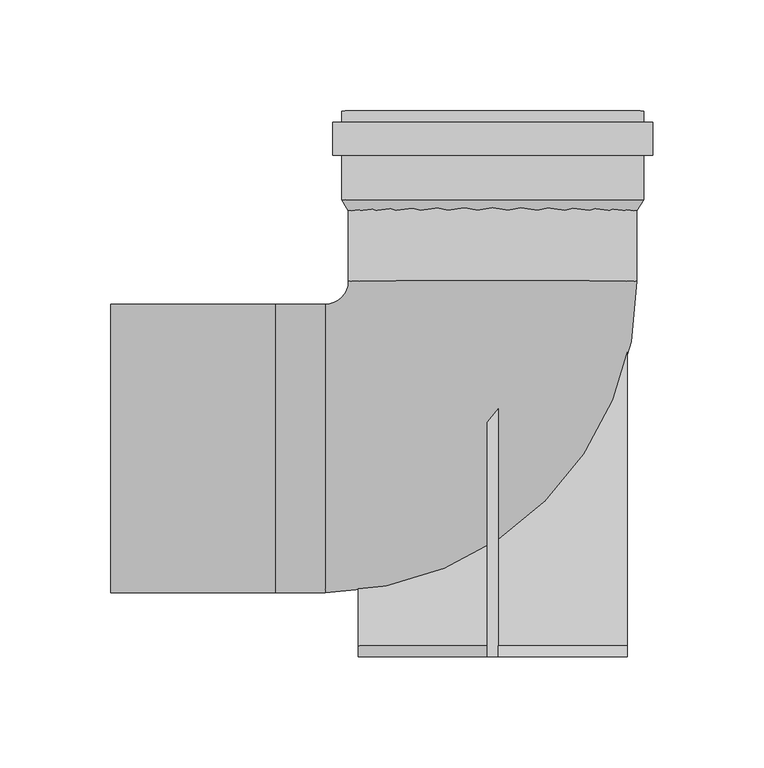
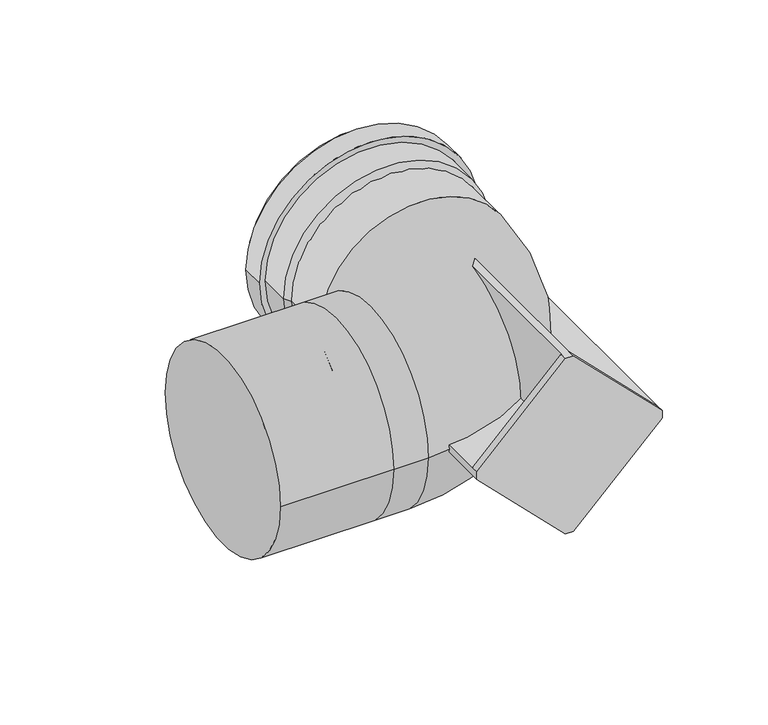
"""IFC4 building model written with IfcOpenShell, lengths in millimetres: duct fitting geometry, NLRS_57_DUF_UN_Twinline Supportbend_M&G : ø130 - 150 - 200."""

import ifcopenshell
import ifcopenshell.guid

model = None  # the IFC model being written
_history = None  # IfcOwnerHistory: only IFC2X3 demands one
_inside = {}  # id of a spatial element -> (the spatial element, [elements in it])
_under = {}  # id of a project, library or spatial element -> (it, [spatial elements below it])
_declared = {}  # id of a project -> (the project, [libraries it declares])
_typed = {}  # id of a type object -> (the type object, [elements of that type])
_made_of = {}  # id of a material, layer set ... -> (it, [elements and type objects made of it])


def new_model(schema):
    """Start an empty IFC model of exactly this schema.

    Asked for "IFC4X3", IfcOpenShell would pick the latest addendum, in which some entities
    have other attributes; the version numbers below select the first issue.
    IFC2X3 requires an IfcOwnerHistory on every rooted entity: one is made here for all.
    """
    global model, _history
    if schema == "IFC4X3":
        model = ifcopenshell.file(schema_version=(4, 3, 0, 0))
    else:
        model = ifcopenshell.file(schema=schema)
    _inside.clear()
    _under.clear()
    _declared.clear()
    _typed.clear()
    _made_of.clear()
    _history = None
    if model.schema == "IFC2X3":
        org = make("IfcOrganization", Name="unknown")
        user = make(
            "IfcPersonAndOrganization",
            ThePerson=make("IfcPerson", FamilyName="unknown"),
            TheOrganization=org,
        )
        app = make(
            "IfcApplication",
            ApplicationDeveloper=org,
            Version="unknown",
            ApplicationFullName="unknown",
            ApplicationIdentifier="unknown",
        )
        _history = make(
            "IfcOwnerHistory",
            OwningUser=user,
            OwningApplication=app,
            ChangeAction="ADDED",
            CreationDate=0,
        )
    return model


def make(cls, **values):
    """One entity of the class cls with the attributes given. An attribute that is None is left unset."""
    return model.create_entity(
        cls, **{name: value for name, value in values.items() if value is not None}
    )


def rooted(cls, **values):
    """An entity with a GlobalId (a new one), such as an element, a storey or a relation."""
    return make(cls, GlobalId=ifcopenshell.guid.new(), OwnerHistory=_history, **values)


def si_unit(unit_type, name, prefix=None):
    """IfcSIUnit, for example si_unit("LENGTHUNIT", "METRE", prefix="MILLI")."""
    return make("IfcSIUnit", UnitType=unit_type, Prefix=prefix, Name=name)


def assignment(units):
    """IfcUnitAssignment: the units of a project."""
    return None if units is None else make("IfcUnitAssignment", Units=units)


def point(xyz):
    """IfcCartesianPoint."""
    return None if xyz is None else make("IfcCartesianPoint", Coordinates=xyz)


def direction(xyz):
    """IfcDirection."""
    return None if xyz is None else make("IfcDirection", DirectionRatios=xyz)


def frame(location, z_axis=None, x_axis=None):
    """IfcAxis2Placement3D, a coordinate frame: its origin and axes. An axis left out is left unset."""
    return make(
        "IfcAxis2Placement3D",
        Location=point(location),
        Axis=direction(z_axis),
        RefDirection=direction(x_axis),
    )


def frame_2d(location, x_axis=None):
    """IfcAxis2Placement2D, a coordinate frame in the plane: its origin and x axis."""
    return make(
        "IfcAxis2Placement2D", Location=point(location), RefDirection=direction(x_axis)
    )


def origin():
    """The frame at (0, 0, 0) with its axes left unset."""
    return frame((0.0, 0.0, 0.0))


def origin_2d():
    """The frame at (0, 0) in the plane with its x axis left unset."""
    return frame_2d((0.0, 0.0))


def place(relative_to, where):
    """IfcLocalPlacement: puts the frame where relative to a parent placement (None: the world)."""
    return make(
        "IfcLocalPlacement", PlacementRelTo=relative_to, RelativePlacement=where
    )


def context(
    kind, dimensions, precision=None, world=None, true_north=None, identifier=None
):
    """IfcGeometricRepresentationContext, for example the 3D "Model" context."""
    return make(
        "IfcGeometricRepresentationContext",
        ContextIdentifier=identifier,
        ContextType=kind,
        CoordinateSpaceDimension=dimensions,
        Precision=precision,
        WorldCoordinateSystem=world,
        TrueNorth=true_north,
    )


def project(units=None, contexts=None):
    """IfcProject with its units and contexts."""
    return rooted(
        "IfcProject",
        Name="project",
        RepresentationContexts=contexts,
        UnitsInContext=assignment(units),
    )


def spatial(cls, under=None, at=None, **own):
    """A site, building, storey or space (cls), placed at a placement, below another one or the project."""
    s = rooted(cls, ObjectPlacement=at, **own)
    if under is not None:
        _under.setdefault(under.id(), (under, []))[1].append(s)
    return s


def polyline(points):
    """IfcPolyline through the points."""
    return make("IfcPolyline", Points=[point(p) for p in points])


def circle_curve(where, radius):
    """IfcCircle in the frame where."""
    return make("IfcCircle", Position=where, Radius=radius)


def ellipse_curve(where, semi_axis1, semi_axis2):
    """IfcEllipse in the frame where."""
    return make(
        "IfcEllipse", Position=where, SemiAxis1=semi_axis1, SemiAxis2=semi_axis2
    )


def trimmed(basis, trim1, trim2, sense, master):
    """IfcTrimmedCurve: the piece of a basis curve between two trims."""
    return make(
        "IfcTrimmedCurve",
        BasisCurve=basis,
        Trim1=trim1,
        Trim2=trim2,
        SenseAgreement=sense,
        MasterRepresentation=master,
    )


def segment(curve, same_sense, transition):
    """IfcCompositeCurveSegment."""
    return make(
        "IfcCompositeCurveSegment",
        Transition=transition,
        SameSense=same_sense,
        ParentCurve=curve,
    )


def composite_curve(segments, self_intersect=None):
    """IfcCompositeCurve: segments joined end to end."""
    return make("IfcCompositeCurve", Segments=segments, SelfIntersect=self_intersect)


def outline(outer, holes=None, kind="AREA"):
    """IfcArbitraryClosedProfileDef: a profile drawn as a closed curve; with holes, ...WithVoids."""
    if holes is None:
        return make("IfcArbitraryClosedProfileDef", ProfileType=kind, OuterCurve=outer)
    return make(
        "IfcArbitraryProfileDefWithVoids",
        ProfileType=kind,
        OuterCurve=outer,
        InnerCurves=holes,
    )


def extrude(swept, where, along, depth):
    """IfcExtrudedAreaSolid: the profile swept, set in the frame where, extruded along a direction by depth."""
    return make(
        "IfcExtrudedAreaSolid",
        SweptArea=swept,
        Position=where,
        ExtrudedDirection=direction(along),
        Depth=depth,
    )


def faces_of(points, faces, orient=None, outer=None):
    """IfcFace entities. A face is a list of loops; a loop is a list of indices into points, from 0.

    orient and outer hold one flag for each loop. By default every Orientation is true, the
    first loop of a face is its IfcFaceOuterBound and the others are IfcFaceBound.
    """
    made = []
    for i, loops in enumerate(faces):
        bounds = []
        for j, loop in enumerate(loops):
            is_outer = j == 0 if outer is None else outer[i][j]
            bounds.append(
                make(
                    "IfcFaceOuterBound" if is_outer else "IfcFaceBound",
                    Bound=make("IfcPolyLoop", Polygon=[points[k] for k in loop]),
                    Orientation=True if orient is None else orient[i][j],
                )
            )
        made.append(make("IfcFace", Bounds=bounds))
    return made


def faceted_brep(points, faces, orient=None, outer=None, voids=None):
    """IfcFacetedBrep: a solid bounded by flat faces; with voids (closed shells), ...WithVoids."""
    shared = [point(p) for p in points]
    hull = make("IfcClosedShell", CfsFaces=faces_of(shared, faces, orient, outer))
    if voids is None:
        return make("IfcFacetedBrep", Outer=hull)
    return make(
        "IfcFacetedBrepWithVoids",
        Outer=hull,
        Voids=[
            make(cls, CfsFaces=faces_of(shared, fs, o, b)) for cls, fs, o, b in voids
        ],
    )


def shape(context_of_items, identifier, shape_type, items):
    """IfcShapeRepresentation: the items that make up one representation, for example the "Body"."""
    return make(
        "IfcShapeRepresentation",
        ContextOfItems=context_of_items,
        RepresentationIdentifier=identifier,
        RepresentationType=shape_type,
        Items=items,
    )


def source(mapping_origin, context_of_items, identifier, shape_type, items):
    """IfcRepresentationMap: a shape defined once, which mapped items show again and again."""
    return make(
        "IfcRepresentationMap",
        MappingOrigin=mapping_origin,
        MappedRepresentation=shape(context_of_items, identifier, shape_type, items),
    )


def transform(
    local_origin,
    x_axis=None,
    y_axis=None,
    z_axis=None,
    scale=None,
    scale2=None,
    scale3=None,
    uniform=True,
):
    """IfcCartesianTransformationOperator3D, or its non-uniform kind. x_axis, y_axis, z_axis: its Axis1, 2, 3."""
    if uniform:
        return make(
            "IfcCartesianTransformationOperator3D",
            Axis1=direction(x_axis),
            Axis2=direction(y_axis),
            LocalOrigin=point(local_origin),
            Scale=scale,
            Axis3=direction(z_axis),
        )
    return make(
        "IfcCartesianTransformationOperator3DnonUniform",
        Axis1=direction(x_axis),
        Axis2=direction(y_axis),
        LocalOrigin=point(local_origin),
        Scale=scale,
        Axis3=direction(z_axis),
        Scale2=scale2,
        Scale3=scale3,
    )


def mapped(mapping_source, mapping_target):
    """IfcMappedItem: shows the shape of a source again, moved by a transform."""
    return make(
        "IfcMappedItem", MappingSource=mapping_source, MappingTarget=mapping_target
    )


def made_of(thing, what):
    """Note that an element or type object is made of a material, layer set ...; save() writes the relation."""
    if what is not None:
        _made_of.setdefault(what.id(), (what, []))[1].append(thing)
    return thing


def element(
    cls,
    number,
    at=None,
    inside=None,
    cuts=None,
    type_object=None,
    material=None,
    context=None,
    identifier="Body",
    shape_type=None,
    held_by="IfcProductDefinitionShape",
    body=None,
    shapes=None,
    **own,
):
    """One element of the class cls, such as IfcWall. Its Tag is "e" and its number.

    at: its placement. inside: the storey or other place that contains it. cuts: it is an
    opening in that element (IfcRelVoidsElement). A single representation is given by context,
    identifier, shape_type and body (its items); several are given by shapes. held_by: the class
    of the entity that holds the representations. save() writes the other relations.
    """
    e = rooted(cls, Tag="e%d" % number, ObjectPlacement=at, **own)
    if body is not None:
        shapes = [shape(context, identifier, shape_type, body)]
    if shapes is not None:
        e.Representation = make(held_by, Representations=shapes)
    if inside is not None:
        _inside.setdefault(inside.id(), (inside, []))[1].append(e)
    if cuts is not None:
        rooted(
            "IfcRelVoidsElement", RelatingBuildingElement=cuts, RelatedOpeningElement=e
        )
    if type_object is not None:
        _typed.setdefault(type_object.id(), (type_object, []))[1].append(e)
    return made_of(e, material)


def aggregate(whole, parts):
    """IfcRelAggregates: a whole, such as a stair, and the parts it consists of."""
    return rooted("IfcRelAggregates", RelatingObject=whole, RelatedObjects=parts)


def save(model, path):
    """Write the relations noted so far, then the file.

    IfcRelAggregates (storeys below a building ...), IfcRelContainedInSpatialStructure (elements
    in a storey), IfcRelDefinesByType, IfcRelAssociatesMaterial and IfcRelDeclares: one each for
    every whole, place, type object, material and project.
    """
    for whole, parts in _under.values():
        aggregate(whole, parts)
    for where, things in _inside.values():
        rooted(
            "IfcRelContainedInSpatialStructure",
            RelatedElements=things,
            RelatingStructure=where,
        )
    for kind, things in _typed.values():
        rooted("IfcRelDefinesByType", RelatedObjects=things, RelatingType=kind)
    for what, things in _made_of.values():
        rooted("IfcRelAssociatesMaterial", RelatedObjects=things, RelatingMaterial=what)
    for by, libraries in _declared.values():
        rooted("IfcRelDeclares", RelatingContext=by, RelatedDefinitions=libraries)
    model.write(path)


def plane_surface(at):
    """IfcPlane: the flat surface through the origin of the frame at, square to its z axis."""
    return make("IfcPlane", Position=at)


def cylinder_surface(at, radius):
    """IfcCylindricalSurface: all points at the distance radius from the z axis of the frame at."""
    return make("IfcCylindricalSurface", Position=at, Radius=radius)


def revolved_surface(curve, axis_point, axis_direction):
    """IfcSurfaceOfRevolution: the curve turned about the line through axis_point along axis_direction."""
    return make(
        "IfcSurfaceOfRevolution",
        SweptCurve=make("IfcArbitraryOpenProfileDef", ProfileType="CURVE", Curve=curve),
        AxisPosition=make("IfcAxis1Placement", Location=point(axis_point), Axis=direction(axis_direction)),
    )


def advanced_brep(points, edges, surfaces, faces):
    """IfcAdvancedBrep: a solid bounded by faces that lie on surfaces and meet in shared edges.

    An edge is (start, end): straight between two places in points (the first is 0);
    or (start, end, curve); or (start, end, curve, False) where it runs against its curve.
    A face is (place in surfaces, loops), or (place, loops, False) where it looks against
    its surface's normal. A loop lists edges by number (the first is 1), with a minus sign
    where the edge is run from its end to its start. The first loop is the outer one.
    """
    corners = [point(p) for p in points]
    vertices = [make("IfcVertexPoint", VertexGeometry=c) for c in corners]
    made = []
    for start, end, *more in edges:
        made.append(
            make(
                "IfcEdgeCurve",
                EdgeStart=vertices[start],
                EdgeEnd=vertices[end],
                EdgeGeometry=more[0] if more else make("IfcPolyline", Points=[corners[start], corners[end]]),
                SameSense=more[1] if len(more) > 1 else True,
            )
        )
    hull = []
    for where, loops, *sense in faces:
        bounds = []
        for j, loop in enumerate(loops):
            ring = [make("IfcOrientedEdge", EdgeElement=made[abs(k) - 1], Orientation=k > 0) for k in loop]
            bounds.append(
                make(
                    "IfcFaceOuterBound" if j == 0 else "IfcFaceBound",
                    Bound=make("IfcEdgeLoop", EdgeList=ring),
                    Orientation=True,
                )
            )
        hull.append(make("IfcAdvancedFace", Bounds=bounds, FaceSurface=surfaces[where], SameSense=sense[0] if sense else True))
    return make("IfcAdvancedBrep", Outer=make("IfcClosedShell", CfsFaces=hull))


def duct_fitting_874dda1b(model_context):
    return source(origin(), model_context, "Body", "SolidModel", [
        faceted_brep([(-2.5, 52.0, 2.5), (-2.5, 52.0, 60.58), (2.5, 52.0, 60.58), (2.5, 52.0, 2.5), (60.58, 52.0, 2.5), (60.58, 52.0, -2.5), (2.5, 52.0, -2.5), (2.5, 52.0, -60.58), (-2.5, 52.0, -60.58), (-2.5, 52.0, -2.5), (-60.58, 52.0, -2.5), (-60.58, 52.0, 2.5), (-60.58, -94.0, 2.5), (-60.58, -94.0, -2.5), (-2.5, -94.0, -60.58), (2.5, -94.0, -60.58), (60.58, -94.0, -2.5), (60.58, -94.0, 2.5), (2.5, -94.0, 60.58), (-2.5, -94.0, 60.58), (60.58, -89.0, 2.5), (60.58, -89.0, -2.5), (2.5, -89.0, -2.5), (2.5, -89.0, -60.58), (-2.5, -89.0, -60.58), (-2.5, -89.0, -2.5), (-60.58, -89.0, -2.5), (-60.58, -89.0, 2.5), (-2.5, -89.0, 2.5), (2.5, -89.0, 60.58), (2.5, -89.0, 2.5), (-2.5, -89.0, 60.58)], [[[0, 1, 2, 3, 4, 5, 6, 7, 8, 9, 10, 11]], [[12, 13, 14, 15, 16, 17, 18, 19]], [[5, 4, 20, 17, 16, 21]], [[6, 5, 21, 22]], [[7, 6, 22, 23]], [[8, 7, 23, 15, 14, 24]], [[9, 8, 24, 25]], [[10, 9, 25, 26]], [[11, 10, 26, 13, 12, 27]], [[0, 11, 27, 28]], [[29, 20, 30]], [[21, 23, 22]], [[24, 26, 25]], [[27, 31, 28]], [[20, 29, 18, 17]], [[23, 21, 16, 15]], [[1, 0, 28, 31]], [[2, 1, 31, 19, 18, 29]], [[3, 2, 29, 30]], [[4, 3, 30, 20]], [[26, 24, 14, 13]], [[31, 27, 12, 19]]]),
        advanced_brep(
        [(-172.0, 65.0, 0.0), (-172.0, -65.0, 0.0), (-98.0, 65.0, 0.0), (-98.0, -65.0, 0.0), (-75.4, -65.0, 0.0), (-75.4, 65.0, 0.0), (65.0, 75.4, 0.0), (-65.0, 75.4, 0.0), (65.0, 112.0, 0.0), (0.0, 112.0, 65.0), (-65.0, 112.0, 0.0), (0.0, 112.0, -65.0), (0.0, 114.0, -65.0), (0.0, 114.0, 65.0)],
        [
            (0, 1, circle_curve(frame((-172.0, 0.0, 0.0), z_axis=(-1.0, 0.0, 0.0), x_axis=(0.0, -1.0, 0.0)), 65.0)),
            (1, 0, circle_curve(frame((-172.0, 0.0, 0.0), z_axis=(-1.0, 0.0, 0.0), x_axis=(0.0, -1.0, 0.0)), 65.0)),
            (0, 2),
            (2, 3, circle_curve(frame((-98.0, 0.0, 0.0), z_axis=(-1.0, 0.0, 0.0), x_axis=(0.0, -1.0, 0.0)), 65.0)),
            (3, 1),
            (3, 2, circle_curve(frame((-98.0, 0.0, 0.0), z_axis=(-1.0, 0.0, 0.0), x_axis=(0.0, -1.0, 0.0)), 65.0)),
            (3, 4),
            (4, 5, circle_curve(frame((-75.4, 0.0, 0.0), z_axis=(-1.0, 0.0, 0.0), x_axis=(0.0, 1.0, 0.0)), 65.0)),
            (5, 2),
            (5, 4, circle_curve(frame((-75.4, 0.0, 0.0), z_axis=(-1.0, 0.0, 0.0), x_axis=(0.0, 1.0, 0.0)), 65.0)),
            (4, 6, circle_curve(frame((-75.4, 75.4, 0.0), z_axis=(0.0, 0.0, 1.0), x_axis=(0.0, -1.0, 0.0)), 140.4)),
            (6, 7, circle_curve(frame((0.0, 75.4, 0.0), z_axis=(0.0, -1.0, 0.0), x_axis=(-1.0, 0.0, 0.0)), 65.0)),
            (7, 5, circle_curve(frame((-75.4, 75.4, 0.0), z_axis=(0.0, 0.0, -1.0), x_axis=(0.0, -1.0, 0.0)), 10.4)),
            (7, 6, circle_curve(frame((0.0, 75.4, 0.0), z_axis=(0.0, -1.0, 0.0), x_axis=(-1.0, 0.0, 0.0)), 65.0)),
            (6, 8),
            (8, 9, circle_curve(frame((0.0, 112.0, 0.0), z_axis=(0.0, -1.0, 0.0), x_axis=(-1.0, 0.0, 0.0)), 65.0)),
            (9, 10, circle_curve(frame((0.0, 112.0, 0.0), z_axis=(0.0, -1.0, 0.0), x_axis=(-1.0, 0.0, 0.0)), 65.0)),
            (10, 7),
            (10, 11, circle_curve(frame((0.0, 112.0, 0.0), z_axis=(0.0, -1.0, 0.0), x_axis=(-1.0, 0.0, 0.0)), 65.0)),
            (11, 8, circle_curve(frame((0.0, 112.0, 0.0), z_axis=(0.0, -1.0, 0.0), x_axis=(-1.0, 0.0, 0.0)), 65.0)),
            (12, 13, circle_curve(frame((0.0, 114.0, 0.0), z_axis=(0.0, 1.0, 0.0), x_axis=(0.0, 0.0, 1.0)), 65.0)),
            (13, 12, circle_curve(frame((0.0, 114.0, 0.0), z_axis=(0.0, 1.0, 0.0), x_axis=(0.0, 0.0, 1.0)), 65.0)),
            (12, 11),
            (9, 13),
        ],
        [
            plane_surface(frame((-172.0, -65.0, 0.0), z_axis=(-1.0, 0.0, 0.0), x_axis=(0.0, 0.0, 1.0))),
            cylinder_surface(frame((-98.0, 0.0, 0.0), z_axis=(-1.0, 0.0, 0.0), x_axis=(0.0, -1.0, 0.0)), 65.0),
            cylinder_surface(frame((-98.0, 0.0, 0.0), z_axis=(-1.0, 0.0, 0.0), x_axis=(0.0, 1.0, 0.0)), 65.0),
            revolved_surface(trimmed(ellipse_curve(frame((-75.4, 0.0, 0.0), z_axis=(-1.0, 0.0, 0.0), x_axis=(0.0, 1.0, 0.0)), 65.0, 65.0), [point((-75.4, -65.0, 0.0))], [point((-75.4, 65.0, 0.0))], True, "CARTESIAN"), (-75.4, 75.4, 0.0), (0.0, 0.0, 1.0)),
            revolved_surface(trimmed(ellipse_curve(frame((-75.4, 0.0, 0.0), z_axis=(-1.0, 0.0, 0.0), x_axis=(0.0, 1.0, 0.0)), 65.0, 65.0), [point((-75.4, 65.0, 0.0))], [point((-75.4, -65.0, 0.0))], True, "CARTESIAN"), (-75.4, 75.4, 0.0), (0.0, 0.0, 1.0)),
            cylinder_surface(frame((0.0, 75.4, 0.0), z_axis=(0.0, -1.0, 0.0), x_axis=(-1.0, 0.0, 0.0)), 65.0),
            plane_surface(frame((0.0, 114.0, 65.0), z_axis=(0.0, 1.0, 0.0), x_axis=(1.0, 0.0, 0.0))),
            cylinder_surface(frame((0.0, 112.0, 0.0), z_axis=(0.0, 1.0, 0.0), x_axis=(0.0, 0.0, 1.0)), 65.0),
        ],
        [
            (0, [[1, 2]]),
            (1, [[-1, 3, 4, 5]]),
            (1, [[-2, -5, 6, -3]]),
            (2, [[7, 8, 9, -6]]),
            (2, [[-7, -4, -9, 10]]),
            (3, [[-8, 11, 12, 13]]),
            (4, [[-10, -13, 14, -11]]),
            (5, [[-12, 15, 16, 17, 18]]),
            (5, [[-14, -18, 19, 20, -15]]),
            (6, [[21, 22]]),
            (7, [[-21, 23, -19, -17, 24]]),
            (7, [[-22, -24, -16, -20, -23]]),
        ],
    ),
        extrude(outline(composite_curve([segment(trimmed(circle_curve(origin_2d(), 72.0), [point((0.0, 72.0))], [point((0.0, -72.0))], False, "CARTESIAN"), True, "CONTINUOUS"), segment(trimmed(circle_curve(origin_2d(), 72.0), [point((0.0, -72.0))], [point((0.0, 72.0))], False, "CARTESIAN"), True, "CONTINUOUS")], self_intersect=False), holes=[composite_curve([segment(trimmed(circle_curve(origin_2d(), 68.0), [point((0.0, -68.0))], [point((0.0, 68.0))], True, "CARTESIAN"), True, "CONTINUOUS"), segment(trimmed(circle_curve(origin_2d(), 68.0), [point((0.0, 68.0))], [point((0.0, -68.0))], True, "CARTESIAN"), True, "CONTINUOUS")], self_intersect=False)]), frame((0.0, 132.0, 0.0), z_axis=(0.0, 1.0, 0.0), x_axis=(0.0, 0.0, 1.0)), (0.0, 0.0, 1.0), 15.0),
        advanced_brep(
        [(-68.0, 112.0, 0.0), (68.0, 112.0, 0.0), (68.0, 152.0, 0.0), (-68.0, 152.0, 0.0), (-65.0, 107.0, 0.0), (65.0, 107.0, 0.0), (-65.0, 152.0, 0.0), (65.0, 152.0, 0.0)],
        [
            (0, 1, circle_curve(frame((0.0, 112.0, 0.0), z_axis=(0.0, 1.0, 0.0), x_axis=(1.0, 0.0, 0.0)), 68.0)),
            (1, 2),
            (2, 3, circle_curve(frame((0.0, 152.0, 0.0), z_axis=(0.0, -1.0, 0.0), x_axis=(1.0, 0.0, 0.0)), 68.0)),
            (3, 0),
            (4, 5, circle_curve(frame((0.0, 107.0, 0.0), z_axis=(0.0, 1.0, 0.0), x_axis=(1.0, 0.0, 0.0)), 65.0)),
            (5, 1),
            (0, 4),
            (6, 7, circle_curve(frame((0.0, 152.0, 0.0), z_axis=(0.0, 1.0, 0.0), x_axis=(1.0, 0.0, 0.0)), 65.0)),
            (7, 5),
            (4, 6),
            (2, 3, circle_curve(frame((0.0, 152.0, 0.0), z_axis=(0.0, 1.0, 0.0), x_axis=(-1.0, 0.0, 0.0)), 68.0)),
            (6, 7, circle_curve(frame((0.0, 152.0, 0.0), z_axis=(0.0, -1.0, 0.0), x_axis=(-1.0, 0.0, 0.0)), 65.0)),
            (1, 0, circle_curve(frame((0.0, 112.0, 0.0), z_axis=(0.0, 1.0, 0.0), x_axis=(-1.0, 0.0, 0.0)), 68.0)),
            (5, 4, circle_curve(frame((0.0, 107.0, 0.0), z_axis=(0.0, 1.0, 0.0), x_axis=(-1.0, 0.0, 0.0)), 65.0)),
        ],
        [
            cylinder_surface(frame((0.0, 112.0, 0.0), z_axis=(0.0, -1.0, 0.0), x_axis=(1.0, 0.0, 0.0)), 68.0),
            revolved_surface(polyline([(68.0, 112.0, 0.0), (65.0, 107.0, 0.0)]), (0.0, 112.0, 0.0), (0.0, -1.0, 0.0)),
            revolved_surface(polyline([(65.0, 107.0, 0.0), (65.0, 152.0, 0.0)]), (0.0, 112.0, 0.0), (0.0, -1.0, 0.0)),
            plane_surface(frame((0.0, 152.0, 0.0), z_axis=(0.0, 1.0, 0.0), x_axis=(-1.0, 0.0, 0.0))),
            cylinder_surface(frame((0.0, 112.0, 0.0), z_axis=(0.0, -1.0, 0.0), x_axis=(-1.0, 0.0, 0.0)), 68.0),
            revolved_surface(polyline([(-68.0, 112.0, 0.0), (-65.0, 107.0, 0.0)]), (0.0, 112.0, 0.0), (0.0, -1.0, 0.0)),
            revolved_surface(polyline([(-65.0, 107.0, 0.0), (-65.0, 152.0, 0.0)]), (0.0, 112.0, 0.0), (0.0, -1.0, 0.0)),
        ],
        [
            (0, [[1, 2, 3, 4]]),
            (1, [[5, 6, -1, 7]]),
            (2, [[8, 9, -5, 10]]),
            (3, [[11, -3], [12, -8]]),
            (4, [[13, -4, -11, -2]]),
            (5, [[14, -7, -13, -6]]),
            (6, [[-12, -10, -14, -9]]),
        ],
    ),
    ])


if __name__ == "__main__":
    model = new_model("IFC4")
    model_context = context("Model", 3, world=origin())
    ifc_project = project(units=[si_unit("LENGTHUNIT", "METRE", prefix="MILLI")], contexts=[model_context])
    site = spatial("IfcSite", under=ifc_project)
    building = spatial("IfcBuilding", under=site)
    placement = place(None, origin())
    duct_fitting_shape = duct_fitting_874dda1b(model_context)
    element("IfcDuctFitting", 1, ObjectType="NLRS_57_DUF_UN_Twinline Supportbend_M&G : ø130 - 150 - 200", at=placement, inside=building, context=model_context, shape_type="MappedRepresentation", body=[
        mapped(duct_fitting_shape, transform((0.0, 0.0, 0.0), x_axis=(1.0, 0.0, 0.0), y_axis=(0.0, 1.0, 0.0), z_axis=(0.0, 0.0, 1.0))),
    ])
    save(model, "model.ifc")
